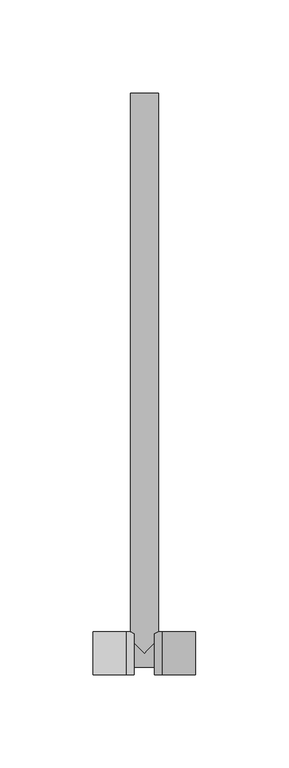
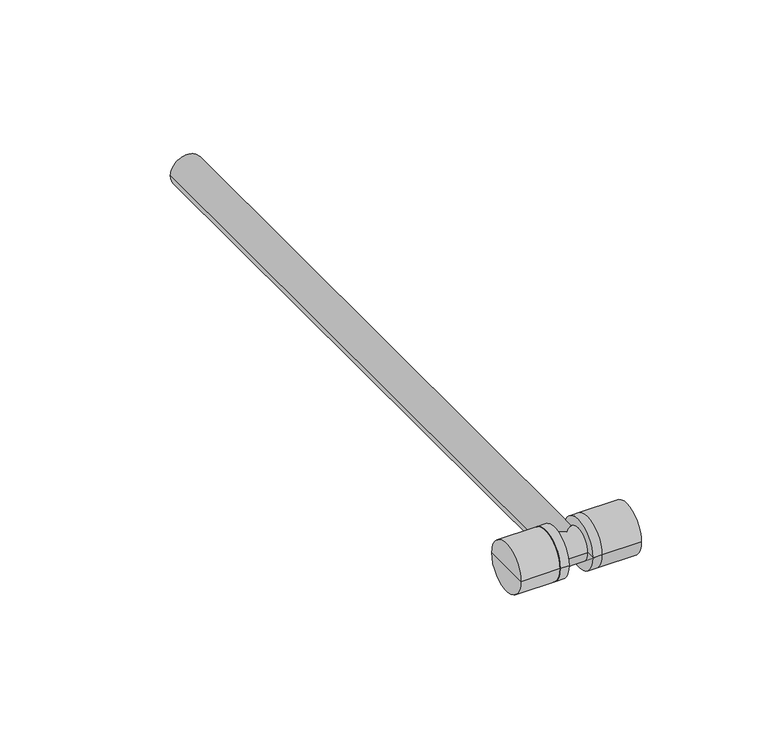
"""IFC4 building model written with IfcOpenShell, lengths in millimetres: pipe fitting geometry, KAN-therm Push trójnik z rurą Cu15 L=300 : KAN-therm Push trójnik z rurą Cu15 L=300."""

from ifc_helpers import new_model, si_unit, frame, origin, place, context, project, spatial, circle_curve, ellipse_curve, source, transform, mapped, element, save
from ifc_brep_helpers import plane_surface, cylinder_surface, advanced_brep


def pipe_fitting_fe5d6294(model_context):
    return source(origin(), model_context, "Body", "AdvancedBrep", [
        advanced_brep(
        [(-9.5, -11.5, 0.0), (-9.5, 0.0, 0.0), (-9.5, 11.5, 0.0), (-5.5, -11.5, 0.0), (-5.5, 11.5, 0.0), (-5.5, 0.0, 0.0)],
        [
            (0, 1),
            (1, 2),
            (2, 0, circle_curve(frame((-9.5, 0.0, 0.0), z_axis=(-1.0, 0.0, 0.0), x_axis=(0.0, 1.0, 0.0)), 11.5)),
            (0, 2, circle_curve(frame((-9.5, 0.0, 0.0), z_axis=(-1.0, 0.0, 0.0), x_axis=(0.0, 1.0, 0.0)), 11.5)),
            (3, 0),
            (2, 4),
            (4, 3, circle_curve(frame((-5.5, 0.0, 0.0), z_axis=(-1.0, 0.0, 0.0), x_axis=(0.0, 1.0, 0.0)), 11.5)),
            (3, 4, circle_curve(frame((-5.5, 0.0, 0.0), z_axis=(-1.0, 0.0, 0.0), x_axis=(0.0, 1.0, 0.0)), 11.5)),
            (5, 3),
            (4, 5),
        ],
        [
            plane_surface(frame((-9.5, 0.0, 0.0), z_axis=(-1.0, 0.0, 0.0), x_axis=(0.0, 1.0, 0.0))),
            cylinder_surface(frame((-2004.5, 0.0, 0.0), z_axis=(1.0, 0.0, 0.0), x_axis=(0.0, 1.0, 0.0)), 11.5),
            plane_surface(frame((-5.5, 0.0, 0.0), z_axis=(1.0, 0.0, 0.0), x_axis=(0.0, 1.0, 0.0))),
        ],
        [
            (0, [[1, 2, 3]]),
            (0, [[-2, -1, 4]]),
            (1, [[5, -3, 6, 7]]),
            (1, [[-6, -4, -5, 8]]),
            (2, [[9, -7, 10]]),
            (2, [[-10, -8, -9]]),
        ],
    ),
        advanced_brep(
        [(-27.5, -11.5, 0.0), (-27.5, 0.0, 0.0), (-27.5, 11.5, 0.0), (-9.5, -11.5, 0.0), (-9.5, 11.5, 0.0), (-9.5, 0.0, 0.0)],
        [
            (0, 1),
            (1, 2),
            (2, 0, circle_curve(frame((-27.5, 0.0, 0.0), z_axis=(-1.0, 0.0, 0.0), x_axis=(0.0, 1.0, 0.0)), 11.5)),
            (0, 2, circle_curve(frame((-27.5, 0.0, 0.0), z_axis=(-1.0, 0.0, 0.0), x_axis=(0.0, 1.0, 0.0)), 11.5)),
            (3, 0),
            (2, 4),
            (4, 3, circle_curve(frame((-9.5, 0.0, 0.0), z_axis=(-1.0, 0.0, 0.0), x_axis=(0.0, 1.0, 0.0)), 11.5)),
            (3, 4, circle_curve(frame((-9.5, 0.0, 0.0), z_axis=(-1.0, 0.0, 0.0), x_axis=(0.0, 1.0, 0.0)), 11.5)),
            (5, 3),
            (4, 5),
        ],
        [
            plane_surface(frame((-27.5, 0.0, 0.0), z_axis=(-1.0, 0.0, 0.0), x_axis=(0.0, 1.0, 0.0))),
            cylinder_surface(frame((-2004.5, 0.0, 0.0), z_axis=(1.0, 0.0, 0.0), x_axis=(0.0, 1.0, 0.0)), 11.5),
            plane_surface(frame((-9.5, 0.0, 0.0), z_axis=(1.0, 0.0, 0.0), x_axis=(0.0, 1.0, 0.0))),
        ],
        [
            (0, [[1, 2, 3]]),
            (0, [[-2, -1, 4]]),
            (1, [[5, -3, 6, 7]]),
            (1, [[-6, -4, -5, 8]]),
            (2, [[9, -7, 10]]),
            (2, [[-10, -8, -9]]),
        ],
    ),
        advanced_brep(
        [(9.5, -11.5, 0.0), (9.5, 11.5, 0.0), (9.5, 0.0, 0.0), (5.5, -11.5, 0.0), (5.5, 11.5, 0.0), (5.5, 0.0, 0.0)],
        [
            (0, 1, circle_curve(frame((9.5, 0.0, 0.0), z_axis=(1.0, 0.0, 0.0), x_axis=(0.0, 1.0, 0.0)), 11.5)),
            (1, 2),
            (2, 0),
            (1, 0, circle_curve(frame((9.5, 0.0, 0.0), z_axis=(1.0, 0.0, 0.0), x_axis=(0.0, 1.0, 0.0)), 11.5)),
            (3, 4, circle_curve(frame((5.5, 0.0, 0.0), z_axis=(1.0, 0.0, 0.0), x_axis=(0.0, 1.0, 0.0)), 11.5)),
            (4, 1),
            (0, 3),
            (4, 3, circle_curve(frame((5.5, 0.0, 0.0), z_axis=(1.0, 0.0, 0.0), x_axis=(0.0, 1.0, 0.0)), 11.5)),
            (5, 4),
            (3, 5),
        ],
        [
            plane_surface(frame((9.5, 0.0, 0.0), z_axis=(1.0, 0.0, 0.0), x_axis=(0.0, 1.0, 0.0))),
            cylinder_surface(frame((2004.5, 0.0, 0.0), z_axis=(-1.0, 0.0, 0.0), x_axis=(0.0, 1.0, 0.0)), 11.5),
            plane_surface(frame((5.5, 0.0, 0.0), z_axis=(-1.0, 0.0, 0.0), x_axis=(0.0, 1.0, 0.0))),
        ],
        [
            (0, [[1, 2, 3]]),
            (0, [[4, -3, -2]]),
            (1, [[5, 6, -1, 7]]),
            (1, [[8, -7, -4, -6]]),
            (2, [[9, -5, 10]]),
            (2, [[-10, -8, -9]]),
        ],
    ),
        advanced_brep(
        [(27.5, -11.5, 0.0), (27.5, 11.5, 0.0), (27.5, 0.0, 0.0), (9.5, -11.5, 0.0), (9.5, 11.5, 0.0), (9.5, 0.0, 0.0)],
        [
            (0, 1, circle_curve(frame((27.5, 0.0, 0.0), z_axis=(1.0, 0.0, 0.0), x_axis=(0.0, 1.0, 0.0)), 11.5)),
            (1, 2),
            (2, 0),
            (1, 0, circle_curve(frame((27.5, 0.0, 0.0), z_axis=(1.0, 0.0, 0.0), x_axis=(0.0, 1.0, 0.0)), 11.5)),
            (3, 4, circle_curve(frame((9.5, 0.0, 0.0), z_axis=(1.0, 0.0, 0.0), x_axis=(0.0, 1.0, 0.0)), 11.5)),
            (4, 1),
            (0, 3),
            (4, 3, circle_curve(frame((9.5, 0.0, 0.0), z_axis=(1.0, 0.0, 0.0), x_axis=(0.0, 1.0, 0.0)), 11.5)),
            (5, 4),
            (3, 5),
        ],
        [
            plane_surface(frame((27.5, 0.0, 0.0), z_axis=(1.0, 0.0, 0.0), x_axis=(0.0, 1.0, 0.0))),
            cylinder_surface(frame((2004.5, 0.0, 0.0), z_axis=(-1.0, 0.0, 0.0), x_axis=(0.0, 1.0, 0.0)), 11.5),
            plane_surface(frame((9.5, 0.0, 0.0), z_axis=(-1.0, 0.0, 0.0), x_axis=(0.0, 1.0, 0.0))),
        ],
        [
            (0, [[1, 2, 3]]),
            (0, [[4, -3, -2]]),
            (1, [[5, 6, -1, 7]]),
            (1, [[8, -7, -4, -6]]),
            (2, [[9, -5, 10]]),
            (2, [[-10, -8, -9]]),
        ],
    ),
        advanced_brep(
        [(-7.5, 300.0, 0.0), (7.5, 300.0, 0.0), (7.5, 7.5, 0.0), (0.0, 0.0, -7.5), (-7.5, 7.5, 0.0), (0.0, 0.0, 7.5), (0.0, 300.0, 0.0), (9.5, -7.5, 0.0), (9.5, 7.5, 0.0), (9.5, 0.0, 0.0), (-9.5, 0.0, 0.0), (-9.5, 7.5, 0.0), (-9.5, -7.5, 0.0)],
        [
            (0, 1, circle_curve(frame((0.0, 300.0, 0.0), z_axis=(0.0, -1.0, 0.0), x_axis=(1.0, 0.0, 0.0)), 7.5)),
            (1, 2),
            (2, 3, ellipse_curve(frame((0.0, 0.0, 0.0), z_axis=(-0.7071067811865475, 0.7071067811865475, 0.0), x_axis=(0.7071067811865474, 0.7071067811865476, 0.0)), 10.6066017, 7.5)),
            (3, 4, ellipse_curve(frame((0.0, 0.0, 0.0), z_axis=(0.7071067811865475, 0.7071067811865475, 0.0), x_axis=(-0.7071067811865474, 0.7071067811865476, 0.0)), 10.6066017, 7.5)),
            (4, 0),
            (1, 0, circle_curve(frame((0.0, 300.0, 0.0), z_axis=(0.0, -1.0, 0.0), x_axis=(1.0, 0.0, 0.0)), 7.5)),
            (4, 5, ellipse_curve(frame((0.0, 0.0, 0.0), z_axis=(0.7071067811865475, 0.7071067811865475, 0.0), x_axis=(-0.7071067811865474, 0.7071067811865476, 0.0)), 10.6066017, 7.5)),
            (5, 2, ellipse_curve(frame((0.0, 0.0, 0.0), z_axis=(-0.7071067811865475, 0.7071067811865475, 0.0), x_axis=(0.7071067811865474, 0.7071067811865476, 0.0)), 10.6066017, 7.5)),
            (0, 6),
            (6, 1),
            (7, 8, circle_curve(frame((9.5, 0.0, 0.0), z_axis=(1.0, 0.0, 0.0), x_axis=(0.0, 1.0, 0.0)), 7.5)),
            (8, 9),
            (9, 7),
            (8, 7, circle_curve(frame((9.5, 0.0, 0.0), z_axis=(1.0, 0.0, 0.0), x_axis=(0.0, 1.0, 0.0)), 7.5)),
            (10, 11),
            (11, 12, circle_curve(frame((-9.5, 0.0, 0.0), z_axis=(-1.0, 0.0, 0.0), x_axis=(0.0, 1.0, 0.0)), 7.5)),
            (12, 10),
            (12, 11, circle_curve(frame((-9.5, 0.0, 0.0), z_axis=(-1.0, 0.0, 0.0), x_axis=(0.0, 1.0, 0.0)), 7.5)),
            (7, 12),
            (11, 4),
            (2, 8),
        ],
        [
            cylinder_surface(frame((0.0, 2000.0, 0.0), z_axis=(0.0, 1.0, 0.0), x_axis=(1.0, 0.0, 0.0)), 7.5),
            plane_surface(frame((0.0, 300.0, 0.0), z_axis=(0.0, 1.0, 0.0), x_axis=(1.0, 0.0, 0.0))),
            plane_surface(frame((9.5, 0.0, 0.0), z_axis=(1.0, 0.0, 0.0), x_axis=(0.0, 1.0, 0.0))),
            plane_surface(frame((-9.5, 0.0, 0.0), z_axis=(-1.0, 0.0, 0.0), x_axis=(0.0, 1.0, 0.0))),
            cylinder_surface(frame((2003.5, 0.0, 0.0), z_axis=(-1.0, 0.0, 0.0), x_axis=(0.0, 1.0, 0.0)), 7.5),
        ],
        [
            (0, [[1, 2, 3, 4, 5]]),
            (0, [[6, -5, 7, 8, -2]]),
            (1, [[-1, 9, 10]]),
            (1, [[-6, -10, -9]]),
            (2, [[11, 12, 13]]),
            (2, [[-12, 14, -13]]),
            (3, [[15, 16, 17]]),
            (3, [[-15, -17, 18]]),
            (4, [[-11, 19, -16, 20, -4, -3, 21]]),
            (4, [[-14, -21, -8, -7, -20, -18, -19]]),
        ],
    ),
    ])


if __name__ == "__main__":
    model = new_model("IFC4")
    model_context = context("Model", 3, world=origin())
    ifc_project = project(units=[si_unit("LENGTHUNIT", "METRE", prefix="MILLI")], contexts=[model_context])
    site = spatial("IfcSite", under=ifc_project)
    building = spatial("IfcBuilding", under=site)
    placement = place(None, origin())
    pipe_fitting_shape = pipe_fitting_fe5d6294(model_context)
    element("IfcPipeFitting", 1, ObjectType="KAN-therm Push trójnik z rurą Cu15 L=300 : KAN-therm Push trójnik z rurą Cu15 L=300", at=placement, inside=building, context=model_context, shape_type="MappedRepresentation", body=[
        mapped(pipe_fitting_shape, transform((0.0, 0.0, 0.0), x_axis=(1.0, 0.0, 0.0), y_axis=(0.0, 1.0, 0.0), z_axis=(0.0, 0.0, 1.0))),
    ])
    save(model, "model.ifc")
